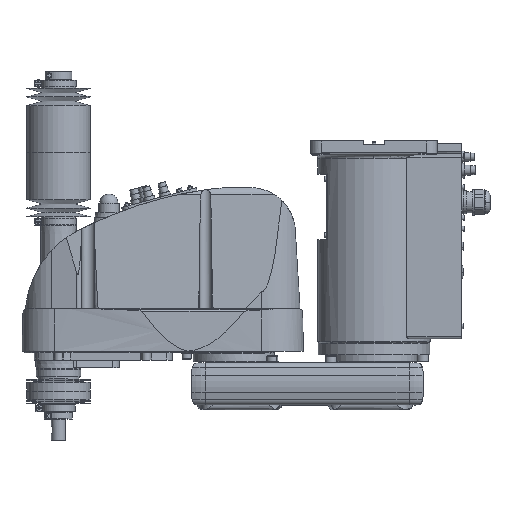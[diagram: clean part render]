
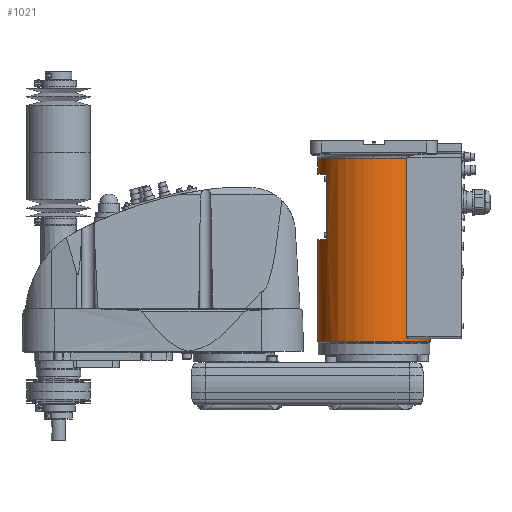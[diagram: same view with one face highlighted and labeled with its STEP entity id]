
A CAD part, top view. The second image highlights one B-rep face of the part: STEP entity #1021.
In plain terms, the highlighted cylindrical face has radius 80 mm (diameter 160 mm), a partial arc.
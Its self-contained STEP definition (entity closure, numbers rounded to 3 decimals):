
#1021 = ADVANCED_FACE( '', ( #3548 ), #3549, .T. );
#3548 = FACE_OUTER_BOUND( '', #7448, .T. );
#3549 = CYLINDRICAL_SURFACE( '', #7449, 80. );
#7448 = EDGE_LOOP( '', ( #14812, #14813, #14814, #14815, #14816, #14817, #14818, #14819, #14820, #14821, #14822, #14823 ) );
#7449 = AXIS2_PLACEMENT_3D( '', #14824, #14825, #14826 );
#14812 = ORIENTED_EDGE( '', *, *, #24222, .T. );
#14813 = ORIENTED_EDGE( '', *, *, #25581, .T. );
#14814 = ORIENTED_EDGE( '', *, *, #25576, .T. );
#14815 = ORIENTED_EDGE( '', *, *, #25572, .T. );
#14816 = ORIENTED_EDGE( '', *, *, #24273, .F. );
#14817 = ORIENTED_EDGE( '', *, *, #24279, .F. );
#14818 = ORIENTED_EDGE( '', *, *, #24228, .T. );
#14819 = ORIENTED_EDGE( '', *, *, #25383, .T. );
#14820 = ORIENTED_EDGE( '', *, *, #25385, .T. );
#14821 = ORIENTED_EDGE( '', *, *, #25386, .T. );
#14822 = ORIENTED_EDGE( '', *, *, #24224, .T. );
#14823 = ORIENTED_EDGE( '', *, *, #25707, .T. );
#14824 = CARTESIAN_POINT( '', ( 0., 160.75, 0. ) );
#14825 = DIRECTION( '', ( 0., -1., 0. ) );
#14826 = DIRECTION( '', ( 1., 0., 0. ) );
#24222 = EDGE_CURVE( '', #28607, #28608, #28609, .T. );
#24224 = EDGE_CURVE( '', #28612, #28610, #28613, .T. );
#24228 = EDGE_CURVE( '', #28620, #28618, #28621, .T. );
#24273 = EDGE_CURVE( '', #28706, #28708, #28709, .T. );
#24279 = EDGE_CURVE( '', #28620, #28706, #28719, .T. );
#25383 = EDGE_CURVE( '', #28618, #30557, #30559, .T. );
#25385 = EDGE_CURVE( '', #30557, #30560, #30562, .T. );
#25386 = EDGE_CURVE( '', #30560, #28612, #30563, .T. );
#25572 = EDGE_CURVE( '', #30855, #28708, #30856, .T. );
#25576 = EDGE_CURVE( '', #30862, #30855, #30863, .T. );
#25581 = EDGE_CURVE( '', #28608, #30862, #30870, .T. );
#25707 = EDGE_CURVE( '', #28610, #28607, #31065, .T. );
#28607 = VERTEX_POINT( '', #35823 );
#28608 = VERTEX_POINT( '', #35824 );
#28609 = LINE( '', #35825, #35826 );
#28610 = VERTEX_POINT( '', #35827 );
#28612 = VERTEX_POINT( '', #35829 );
#28613 = LINE( '', #35830, #35831 );
#28618 = VERTEX_POINT( '', #35837 );
#28620 = VERTEX_POINT( '', #35839 );
#28621 = LINE( '', #35840, #35841 );
#28706 = VERTEX_POINT( '', #35962 );
#28708 = VERTEX_POINT( '', #35964 );
#28709 = CIRCLE( '', #35965, 80. );
#28719 = CIRCLE( '', #36012, 80. );
#30557 = VERTEX_POINT( '', #38602 );
#30559 = CIRCLE( '', #38605, 80. );
#30560 = VERTEX_POINT( '', #38606 );
#30562 = LINE( '', #38609, #38610 );
#30563 = CIRCLE( '', #38611, 80. );
#30855 = VERTEX_POINT( '', #39096 );
#30856 = LINE( '', #39097, #39098 );
#30862 = VERTEX_POINT( '', #39107 );
#30863 = B_SPLINE_CURVE_WITH_KNOTS( '', 3, ( #39108, #39109, #39110, #39111, #39112, #39113, #39114, #39115, #39116, #39117, #39118, #39119, #39120, #39121, #39122, #39123 ), .UNSPECIFIED., .F., .F., ( 4, 2, 2, 2, 2, 2, 2, 4 ), ( -6.06, -5.11, -4.16, -2.26, -1.695, -1.13, -0.565, 0. ), .UNSPECIFIED. );
#30870 = CIRCLE( '', #39133, 80. );
#31065 = CIRCLE( '', #39535, 80. );
#35823 = CARTESIAN_POINT( '', ( 80., 30., 0. ) );
#35824 = CARTESIAN_POINT( '', ( 80., 34.5, 0. ) );
#35825 = CARTESIAN_POINT( '', ( 80., 160.75, 0. ) );
#35826 = VECTOR( '', #49637, 1. );
#35827 = CARTESIAN_POINT( '', ( -80., 30., 0. ) );
#35829 = CARTESIAN_POINT( '', ( -80., 176., 0. ) );
#35830 = CARTESIAN_POINT( '', ( -80., 160.75, 0. ) );
#35831 = VECTOR( '', #49641, 1. );
#35837 = CARTESIAN_POINT( '', ( -80., 269., 0. ) );
#35839 = CARTESIAN_POINT( '', ( -80., 291.5, 0. ) );
#35840 = CARTESIAN_POINT( '', ( -80., 160.75, 0. ) );
#35841 = VECTOR( '', #49649, 1. );
#35962 = CARTESIAN_POINT( '', ( 0., 291.5, 80. ) );
#35964 = CARTESIAN_POINT( '', ( 46.637, 291.5, 65. ) );
#35965 = AXIS2_PLACEMENT_3D( '', #49737, #49738, #49739 );
#36012 = AXIS2_PLACEMENT_3D( '', #49746, #49747, #49748 );
#38602 = CARTESIAN_POINT( '', ( -66., 269., 45.211 ) );
#38605 = AXIS2_PLACEMENT_3D( '', #51644, #51645, #51646 );
#38606 = CARTESIAN_POINT( '', ( -66., 176., 45.211 ) );
#38609 = CARTESIAN_POINT( '', ( -66., 222.5, 45.211 ) );
#38610 = VECTOR( '', #51648, 1. );
#38611 = AXIS2_PLACEMENT_3D( '', #51649, #51650, #51651 );
#39096 = CARTESIAN_POINT( '', ( 46.637, 37.5, 65. ) );
#39097 = CARTESIAN_POINT( '', ( 46.637, 164.5, 65. ) );
#39098 = VECTOR( '', #51913, 1. );
#39107 = CARTESIAN_POINT( '', ( 50.557, 34.5, 62. ) );
#39108 = CARTESIAN_POINT( '', ( 50.557, 34.5, 62. ) );
#39109 = CARTESIAN_POINT( '', ( 50.312, 34.5, 62.2 ) );
#39110 = CARTESIAN_POINT( '', ( 50.054, 34.52, 62.407 ) );
#39111 = CARTESIAN_POINT( '', ( 49.533, 34.607, 62.822 ) );
#39112 = CARTESIAN_POINT( '', ( 49.269, 34.674, 63.029 ) );
#39113 = CARTESIAN_POINT( '', ( 48.491, 34.945, 63.632 ) );
#39114 = CARTESIAN_POINT( '', ( 47.991, 35.221, 64.009 ) );
#39115 = CARTESIAN_POINT( '', ( 47.455, 35.701, 64.405 ) );
#39116 = CARTESIAN_POINT( '', ( 47.333, 35.827, 64.495 ) );
#39117 = CARTESIAN_POINT( '', ( 47.106, 36.105, 64.661 ) );
#39118 = CARTESIAN_POINT( '', ( 47.002, 36.258, 64.736 ) );
#39119 = CARTESIAN_POINT( '', ( 46.828, 36.585, 64.863 ) );
#39120 = CARTESIAN_POINT( '', ( 46.758, 36.761, 64.913 ) );
#39121 = CARTESIAN_POINT( '', ( 46.662, 37.124, 64.982 ) );
#39122 = CARTESIAN_POINT( '', ( 46.637, 37.312, 65. ) );
#39123 = CARTESIAN_POINT( '', ( 46.637, 37.5, 65. ) );
#39133 = AXIS2_PLACEMENT_3D( '', #51923, #51924, #51925 );
#39535 = AXIS2_PLACEMENT_3D( '', #52126, #52127, #52128 );
#49637 = DIRECTION( '', ( 0., 1., 0. ) );
#49641 = DIRECTION( '', ( 0., -1., 0. ) );
#49649 = DIRECTION( '', ( 0., -1., 0. ) );
#49737 = CARTESIAN_POINT( '', ( 0., 291.5, 0. ) );
#49738 = DIRECTION( '', ( 0., 1., 0. ) );
#49739 = DIRECTION( '', ( 1., 0., 0. ) );
#49746 = CARTESIAN_POINT( '', ( 0., 291.5, 0. ) );
#49747 = DIRECTION( '', ( 0., 1., 0. ) );
#49748 = DIRECTION( '', ( 1., 0., 0. ) );
#51644 = CARTESIAN_POINT( '', ( 0., 269., 0. ) );
#51645 = DIRECTION( '', ( 0., 1., 0. ) );
#51646 = DIRECTION( '', ( 1., 0., 0. ) );
#51648 = DIRECTION( '', ( 0., -1., 0. ) );
#51649 = CARTESIAN_POINT( '', ( 0., 176., 0. ) );
#51650 = DIRECTION( '', ( 0., -1., 0. ) );
#51651 = DIRECTION( '', ( 1., 0., 0. ) );
#51913 = DIRECTION( '', ( 0., 1., 0. ) );
#51923 = CARTESIAN_POINT( '', ( 0., 34.5, 0. ) );
#51924 = DIRECTION( '', ( 0., -1., 0. ) );
#51925 = DIRECTION( '', ( 1., 0., 0. ) );
#52126 = CARTESIAN_POINT( '', ( 0., 30., 0. ) );
#52127 = DIRECTION( '', ( 0., 1., 0. ) );
#52128 = DIRECTION( '', ( 1., 0., 0. ) );
